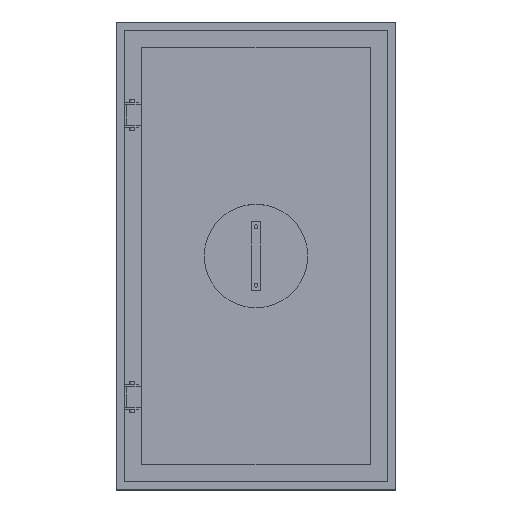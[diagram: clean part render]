
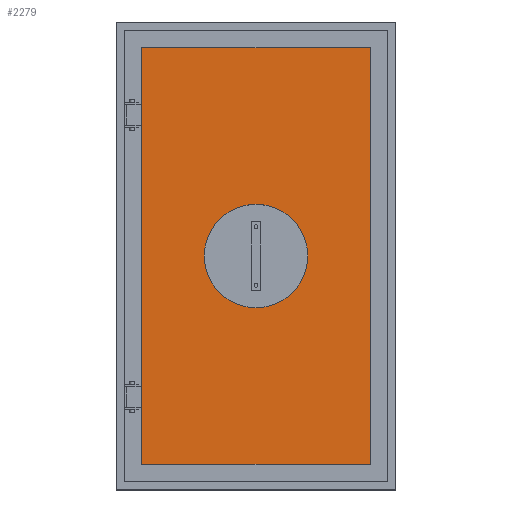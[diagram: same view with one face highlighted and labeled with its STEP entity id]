
A CAD part, top view. The second image highlights one B-rep face of the part: STEP entity #2279.
In plain terms, the highlighted planar face has unit normal (0, 0, 1).
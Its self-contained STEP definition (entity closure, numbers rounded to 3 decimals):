
#411=DIRECTION('',(0.,-1.,0.));
#412=VECTOR('',#411,1772.);
#413=CARTESIAN_POINT('',(-486.,886.,-16.));
#414=LINE('',#413,#412);
#415=DIRECTION('',(-1.,0.,0.));
#416=VECTOR('',#415,972.);
#417=CARTESIAN_POINT('',(486.,886.,-16.));
#418=LINE('',#417,#416);
#419=DIRECTION('',(0.,1.,0.));
#420=VECTOR('',#419,1772.);
#421=CARTESIAN_POINT('',(486.,-886.,-16.));
#422=LINE('',#421,#420);
#423=DIRECTION('',(1.,0.,0.));
#424=VECTOR('',#423,972.);
#425=CARTESIAN_POINT('',(-486.,-886.,-16.));
#426=LINE('',#425,#424);
#427=CARTESIAN_POINT('',(0.,0.,-16.));
#428=DIRECTION('',(0.,0.,1.));
#429=DIRECTION('',(1.,0.,0.));
#430=AXIS2_PLACEMENT_3D('',#427,#428,#429);
#432=CARTESIAN_POINT('',(0.,0.,-16.));
#433=DIRECTION('',(0.,0.,1.));
#434=DIRECTION('',(-1.,0.,0.));
#435=AXIS2_PLACEMENT_3D('',#432,#433,#434);
#1395=CARTESIAN_POINT('',(-486.,886.,-16.));
#1396=CARTESIAN_POINT('',(-486.,-886.,-16.));
#1397=VERTEX_POINT('',#1395);
#1398=VERTEX_POINT('',#1396);
#1399=CARTESIAN_POINT('',(486.,-886.,-16.));
#1400=VERTEX_POINT('',#1399);
#1401=CARTESIAN_POINT('',(486.,886.,-16.));
#1402=VERTEX_POINT('',#1401);
#1693=CARTESIAN_POINT('',(220.,0.,-16.));
#1694=CARTESIAN_POINT('',(-220.,0.,-16.));
#1695=VERTEX_POINT('',#1693);
#1696=VERTEX_POINT('',#1694);
#2262=CARTESIAN_POINT('',(0.,0.,-16.));
#2263=DIRECTION('',(0.,0.,1.));
#2264=DIRECTION('',(1.,0.,0.));
#2265=AXIS2_PLACEMENT_3D('',#2262,#2263,#2264);
#2266=PLANE('',#2265);
#2267=ORIENTED_EDGE('',*,*,#2170,.F.);
#2268=ORIENTED_EDGE('',*,*,#2208,.F.);
#2269=ORIENTED_EDGE('',*,*,#2229,.F.);
#2270=ORIENTED_EDGE('',*,*,#2249,.F.);
#2271=EDGE_LOOP('',(#2267,#2268,#2269,#2270));
#2272=FACE_OUTER_BOUND('',#2271,.F.);
#2274=ORIENTED_EDGE('',*,*,#2273,.T.);
#2276=ORIENTED_EDGE('',*,*,#2275,.T.);
#2277=EDGE_LOOP('',(#2274,#2276));
#2278=FACE_BOUND('',#2277,.F.);
#431=CIRCLE('',#430,220.);
#436=CIRCLE('',#435,220.);
#2170=EDGE_CURVE('',#1397,#1398,#414,.T.);
#2208=EDGE_CURVE('',#1402,#1397,#418,.T.);
#2229=EDGE_CURVE('',#1400,#1402,#422,.T.);
#2249=EDGE_CURVE('',#1398,#1400,#426,.T.);
#2273=EDGE_CURVE('',#1695,#1696,#431,.T.);
#2275=EDGE_CURVE('',#1696,#1695,#436,.T.);
#2279=ADVANCED_FACE('',(#2272,#2278),#2266,.T.);
